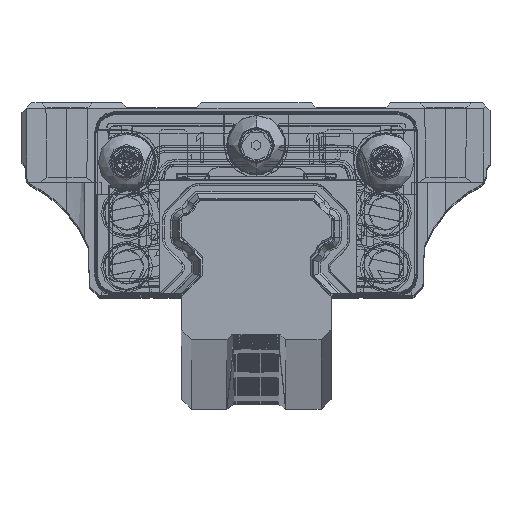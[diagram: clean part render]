
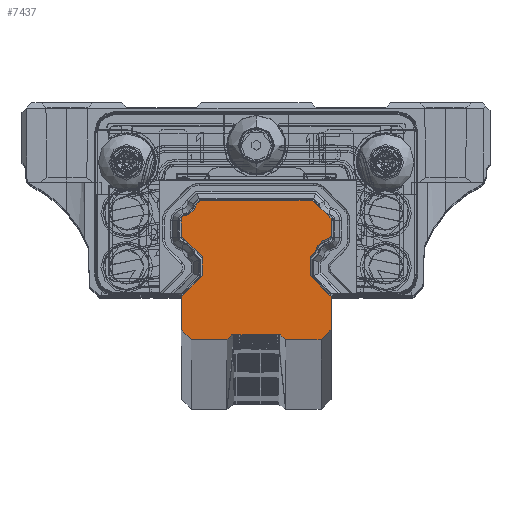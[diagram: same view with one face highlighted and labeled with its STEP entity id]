
A CAD part, top view. The second image highlights one B-rep face of the part: STEP entity #7437.
In plain terms, the highlighted planar face has unit normal (0, 0, 1).
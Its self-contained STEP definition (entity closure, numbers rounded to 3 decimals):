
#27=DIRECTION('',(0.,-1.,0.));
#28=VECTOR('',#27,1.9);
#29=CARTESIAN_POINT('',(-5.4,-2.95,500.));
#30=LINE('',#29,#28);
#39=DIRECTION('',(0.,-1.,0.));
#40=VECTOR('',#39,3.35);
#41=CARTESIAN_POINT('',(-7.5,-6.95,500.));
#42=LINE('',#41,#40);
#51=DIRECTION('',(1.,0.,0.));
#52=VECTOR('',#51,3.55);
#53=CARTESIAN_POINT('',(-6.5,-11.3,500.));
#54=LINE('',#53,#52);
#1493=CARTESIAN_POINT('',(-5.936,-2.414,500.));
#1494=CARTESIAN_POINT('',(-5.979,-2.188,500.));
#1495=CARTESIAN_POINT('',(-6.142,-1.793,500.));
#1496=CARTESIAN_POINT('',(-6.63,-1.326,500.));
#1497=CARTESIAN_POINT('',(-7.009,-1.164,500.));
#1498=CARTESIAN_POINT('',(-7.272,-1.121,500.));
#1500=CARTESIAN_POINT('',(-7.2,-0.834,500.));
#1501=DIRECTION('',(0.,0.,-1.));
#1502=DIRECTION('',(-0.403,-0.915,0.));
#1503=AXIS2_PLACEMENT_3D('',#1500,#1501,#1502);
#1505=CARTESIAN_POINT('',(-7.2,0.834,500.));
#1506=DIRECTION('',(0.,0.,-1.));
#1507=DIRECTION('',(-1.,0.,0.));
#1508=AXIS2_PLACEMENT_3D('',#1505,#1506,#1507);
#1510=CARTESIAN_POINT('',(-7.509,2.709,500.));
#1511=DIRECTION('',(0.,0.,1.));
#1512=DIRECTION('',(0.163,-0.987,0.));
#1513=AXIS2_PLACEMENT_3D('',#1510,#1511,#1512);
#1515=DIRECTION('',(0.707,0.707,0.));
#1516=VECTOR('',#1515,0.494);
#1517=CARTESIAN_POINT('',(-5.949,2.351,500.));
#1518=LINE('',#1517,#1516);
#1519=DIRECTION('',(0.707,-0.707,0.));
#1520=VECTOR('',#1519,0.494);
#1521=CARTESIAN_POINT('',(5.6,2.7,500.));
#1522=LINE('',#1521,#1520);
#1523=CARTESIAN_POINT('',(5.949,2.351,500.));
#1524=CARTESIAN_POINT('',(5.999,2.135,500.));
#1525=CARTESIAN_POINT('',(6.172,1.758,500.));
#1526=CARTESIAN_POINT('',(6.642,1.316,500.));
#1527=CARTESIAN_POINT('',(7.034,1.165,500.));
#1528=CARTESIAN_POINT('',(7.241,1.131,500.));
#1530=CARTESIAN_POINT('',(7.241,1.131,500.));
#1531=CARTESIAN_POINT('',(7.283,1.124,500.));
#1532=CARTESIAN_POINT('',(7.338,1.112,500.));
#1533=CARTESIAN_POINT('',(7.469,0.999,500.));
#1534=CARTESIAN_POINT('',(7.5,0.896,500.));
#1535=CARTESIAN_POINT('',(7.5,0.834,500.));
#1537=CARTESIAN_POINT('',(7.2,-0.834,500.));
#1538=DIRECTION('',(0.,0.,-1.));
#1539=DIRECTION('',(1.,0.,0.));
#1540=AXIS2_PLACEMENT_3D('',#1537,#1538,#1539);
#1542=CARTESIAN_POINT('',(7.509,-2.709,500.));
#1543=DIRECTION('',(0.,0.,1.));
#1544=DIRECTION('',(-0.163,0.987,0.));
#1545=AXIS2_PLACEMENT_3D('',#1542,#1543,#1544);
#1547=DIRECTION('',(-0.707,-0.707,0.));
#1548=VECTOR('',#1547,0.758);
#1549=CARTESIAN_POINT('',(5.936,-2.414,500.));
#1550=LINE('',#1549,#1548);
#1551=DIRECTION('',(0.707,-0.707,0.));
#1552=VECTOR('',#1551,2.97);
#1553=CARTESIAN_POINT('',(5.4,-4.85,500.));
#1554=LINE('',#1553,#1552);
#1555=DIRECTION('',(-0.707,-0.707,0.));
#1556=VECTOR('',#1555,1.414);
#1557=CARTESIAN_POINT('',(7.5,-10.3,500.));
#1558=LINE('',#1557,#1556);
#1559=DIRECTION('',(-0.707,0.707,0.));
#1560=VECTOR('',#1559,0.707);
#1561=CARTESIAN_POINT('',(2.95,-11.3,500.));
#1562=LINE('',#1561,#1560);
#1563=DIRECTION('',(-1.,0.,0.));
#1564=VECTOR('',#1563,4.9);
#1565=CARTESIAN_POINT('',(2.45,-10.8,500.));
#1566=LINE('',#1565,#1564);
#1567=DIRECTION('',(-0.707,-0.707,0.));
#1568=VECTOR('',#1567,0.707);
#1569=CARTESIAN_POINT('',(-2.45,-10.8,500.));
#1570=LINE('',#1569,#1568);
#1571=DIRECTION('',(-0.707,0.707,0.));
#1572=VECTOR('',#1571,1.414);
#1573=CARTESIAN_POINT('',(-6.5,-11.3,500.));
#1574=LINE('',#1573,#1572);
#1575=DIRECTION('',(0.707,0.707,0.));
#1576=VECTOR('',#1575,2.97);
#1577=CARTESIAN_POINT('',(-7.5,-6.95,500.));
#1578=LINE('',#1577,#1576);
#1579=DIRECTION('',(-0.707,0.707,0.));
#1580=VECTOR('',#1579,0.758);
#1581=CARTESIAN_POINT('',(-5.4,-2.95,500.));
#1582=LINE('',#1581,#1580);
#1877=DIRECTION('',(-1.,0.,0.));
#1878=VECTOR('',#1877,11.2);
#1879=CARTESIAN_POINT('',(5.6,2.7,500.));
#1880=LINE('',#1879,#1878);
#3013=DIRECTION('',(0.,-1.,0.));
#3014=VECTOR('',#3013,1.668);
#3015=CARTESIAN_POINT('',(-7.5,0.834,500.));
#3016=LINE('',#3015,#3014);
#3033=DIRECTION('',(0.,1.,0.));
#3034=VECTOR('',#3033,1.668);
#3035=CARTESIAN_POINT('',(7.5,-0.834,500.));
#3036=LINE('',#3035,#3034);
#3053=DIRECTION('',(0.,1.,0.));
#3054=VECTOR('',#3053,1.9);
#3055=CARTESIAN_POINT('',(5.4,-4.85,500.));
#3056=LINE('',#3055,#3054);
#3065=DIRECTION('',(0.,1.,0.));
#3066=VECTOR('',#3065,3.35);
#3067=CARTESIAN_POINT('',(7.5,-10.3,500.));
#3068=LINE('',#3067,#3066);
#3077=DIRECTION('',(1.,0.,0.));
#3078=VECTOR('',#3077,3.55);
#3079=CARTESIAN_POINT('',(2.95,-11.3,500.));
#3080=LINE('',#3079,#3078);
#4881=VERTEX_POINT('',#1493);
#4882=VERTEX_POINT('',#1498);
#4883=CARTESIAN_POINT('',(-7.5,-0.834,500.));
#4884=VERTEX_POINT('',#4883);
#4885=CARTESIAN_POINT('',(-7.5,0.834,500.));
#4886=VERTEX_POINT('',#4885);
#4887=CARTESIAN_POINT('',(-7.249,1.13,500.));
#4888=VERTEX_POINT('',#4887);
#4889=CARTESIAN_POINT('',(-5.949,2.351,500.));
#4890=VERTEX_POINT('',#4889);
#4891=CARTESIAN_POINT('',(-5.6,2.7,500.));
#4892=VERTEX_POINT('',#4891);
#4893=CARTESIAN_POINT('',(5.6,2.7,500.));
#4894=VERTEX_POINT('',#4893);
#4963=CARTESIAN_POINT('',(5.949,2.351,500.));
#4964=VERTEX_POINT('',#4963);
#4965=VERTEX_POINT('',#1528);
#4966=VERTEX_POINT('',#1535);
#4967=CARTESIAN_POINT('',(7.5,-0.834,500.));
#4968=VERTEX_POINT('',#4967);
#4969=CARTESIAN_POINT('',(7.249,-1.13,500.));
#4970=VERTEX_POINT('',#4969);
#4971=CARTESIAN_POINT('',(5.936,-2.414,500.));
#4972=VERTEX_POINT('',#4971);
#4973=CARTESIAN_POINT('',(5.4,-2.95,500.));
#4974=VERTEX_POINT('',#4973);
#4975=CARTESIAN_POINT('',(5.4,-4.85,500.));
#4976=VERTEX_POINT('',#4975);
#4977=CARTESIAN_POINT('',(7.5,-6.95,500.));
#4978=VERTEX_POINT('',#4977);
#4979=CARTESIAN_POINT('',(7.5,-10.3,500.));
#4980=VERTEX_POINT('',#4979);
#4981=CARTESIAN_POINT('',(6.5,-11.3,500.));
#4982=VERTEX_POINT('',#4981);
#4983=CARTESIAN_POINT('',(2.95,-11.3,500.));
#4984=VERTEX_POINT('',#4983);
#4985=CARTESIAN_POINT('',(2.45,-10.8,500.));
#4986=VERTEX_POINT('',#4985);
#4987=CARTESIAN_POINT('',(-2.45,-10.8,500.));
#4988=VERTEX_POINT('',#4987);
#5023=CARTESIAN_POINT('',(-2.95,-11.3,500.));
#5024=VERTEX_POINT('',#5023);
#5025=CARTESIAN_POINT('',(-6.5,-11.3,500.));
#5026=VERTEX_POINT('',#5025);
#5027=CARTESIAN_POINT('',(-7.5,-10.3,500.));
#5028=VERTEX_POINT('',#5027);
#5029=CARTESIAN_POINT('',(-7.5,-6.95,500.));
#5030=VERTEX_POINT('',#5029);
#5031=CARTESIAN_POINT('',(-5.4,-4.85,500.));
#5032=VERTEX_POINT('',#5031);
#5033=CARTESIAN_POINT('',(-5.4,-2.95,500.));
#5034=VERTEX_POINT('',#5033);
#7384=CARTESIAN_POINT('',(0.,0.,500.));
#7385=DIRECTION('',(0.,0.,1.));
#7386=DIRECTION('',(1.,0.,0.));
#7387=AXIS2_PLACEMENT_3D('',#7384,#7385,#7386);
#7388=PLANE('',#7387);
#7389=ORIENTED_EDGE('',*,*,#6038,.T.);
#7391=ORIENTED_EDGE('',*,*,#7390,.T.);
#7393=ORIENTED_EDGE('',*,*,#7392,.F.);
#7395=ORIENTED_EDGE('',*,*,#7394,.T.);
#7397=ORIENTED_EDGE('',*,*,#7396,.T.);
#7399=ORIENTED_EDGE('',*,*,#7398,.T.);
#7401=ORIENTED_EDGE('',*,*,#7400,.F.);
#7403=ORIENTED_EDGE('',*,*,#7402,.T.);
#7405=ORIENTED_EDGE('',*,*,#7404,.T.);
#7407=ORIENTED_EDGE('',*,*,#7406,.T.);
#7409=ORIENTED_EDGE('',*,*,#7408,.F.);
#7411=ORIENTED_EDGE('',*,*,#7410,.T.);
#7413=ORIENTED_EDGE('',*,*,#7412,.T.);
#7415=ORIENTED_EDGE('',*,*,#7414,.T.);
#7417=ORIENTED_EDGE('',*,*,#7416,.F.);
#7419=ORIENTED_EDGE('',*,*,#7418,.T.);
#7421=ORIENTED_EDGE('',*,*,#7420,.F.);
#7423=ORIENTED_EDGE('',*,*,#7422,.T.);
#7425=ORIENTED_EDGE('',*,*,#7424,.F.);
#7426=ORIENTED_EDGE('',*,*,#7374,.T.);
#7427=ORIENTED_EDGE('',*,*,#6532,.T.);
#7428=ORIENTED_EDGE('',*,*,#6145,.T.);
#7429=ORIENTED_EDGE('',*,*,#6128,.F.);
#7430=ORIENTED_EDGE('',*,*,#6113,.T.);
#7431=ORIENTED_EDGE('',*,*,#6098,.F.);
#7432=ORIENTED_EDGE('',*,*,#6083,.T.);
#7433=ORIENTED_EDGE('',*,*,#6068,.F.);
#7434=ORIENTED_EDGE('',*,*,#6053,.T.);
#7435=EDGE_LOOP('',(#7389,#7391,#7393,#7395,#7397,#7399,#7401,#7403,#7405,#7407,
#7409,#7411,#7413,#7415,#7417,#7419,#7421,#7423,#7425,#7426,#7427,#7428,#7429,
#7430,#7431,#7432,#7433,#7434));
#7436=FACE_OUTER_BOUND('',#7435,.F.);
#1499=B_SPLINE_CURVE_WITH_KNOTS('',3,(#1493,#1494,#1495,#1496,#1497,#1498),
.UNSPECIFIED.,.F.,.F.,(4,1,1,4),(0.,0.333,0.667,1.),
.UNSPECIFIED.);
#1504=CIRCLE('',#1503,0.3);
#1509=CIRCLE('',#1508,0.3);
#1514=CIRCLE('',#1513,1.6);
#1529=B_SPLINE_CURVE_WITH_KNOTS('',3,(#1523,#1524,#1525,#1526,#1527,#1528),
.UNSPECIFIED.,.F.,.F.,(4,1,1,4),(0.,0.333,0.667,1.),
.UNSPECIFIED.);
#1536=B_SPLINE_CURVE_WITH_KNOTS('',3,(#1530,#1531,#1532,#1533,#1534,#1535),
.UNSPECIFIED.,.T.,.F.,(4,1,1,4),(0.,0.333,0.667,1.),
.UNSPECIFIED.);
#1541=CIRCLE('',#1540,0.3);
#1546=CIRCLE('',#1545,1.6);
#6038=EDGE_CURVE('',#4881,#4882,#1499,.T.);
#6053=EDGE_CURVE('',#5034,#4881,#1582,.T.);
#6068=EDGE_CURVE('',#5034,#5032,#30,.T.);
#6083=EDGE_CURVE('',#5030,#5032,#1578,.T.);
#6098=EDGE_CURVE('',#5030,#5028,#42,.T.);
#6113=EDGE_CURVE('',#5026,#5028,#1574,.T.);
#6128=EDGE_CURVE('',#5026,#5024,#54,.T.);
#6145=EDGE_CURVE('',#4988,#5024,#1570,.T.);
#6532=EDGE_CURVE('',#4986,#4988,#1566,.T.);
#7374=EDGE_CURVE('',#4984,#4986,#1562,.T.);
#7390=EDGE_CURVE('',#4882,#4884,#1504,.T.);
#7392=EDGE_CURVE('',#4886,#4884,#3016,.T.);
#7394=EDGE_CURVE('',#4886,#4888,#1509,.T.);
#7396=EDGE_CURVE('',#4888,#4890,#1514,.T.);
#7398=EDGE_CURVE('',#4890,#4892,#1518,.T.);
#7400=EDGE_CURVE('',#4894,#4892,#1880,.T.);
#7402=EDGE_CURVE('',#4894,#4964,#1522,.T.);
#7404=EDGE_CURVE('',#4964,#4965,#1529,.T.);
#7406=EDGE_CURVE('',#4965,#4966,#1536,.T.);
#7408=EDGE_CURVE('',#4968,#4966,#3036,.T.);
#7410=EDGE_CURVE('',#4968,#4970,#1541,.T.);
#7412=EDGE_CURVE('',#4970,#4972,#1546,.T.);
#7414=EDGE_CURVE('',#4972,#4974,#1550,.T.);
#7416=EDGE_CURVE('',#4976,#4974,#3056,.T.);
#7418=EDGE_CURVE('',#4976,#4978,#1554,.T.);
#7420=EDGE_CURVE('',#4980,#4978,#3068,.T.);
#7422=EDGE_CURVE('',#4980,#4982,#1558,.T.);
#7424=EDGE_CURVE('',#4984,#4982,#3080,.T.);
#7437=ADVANCED_FACE('',(#7436),#7388,.T.);
